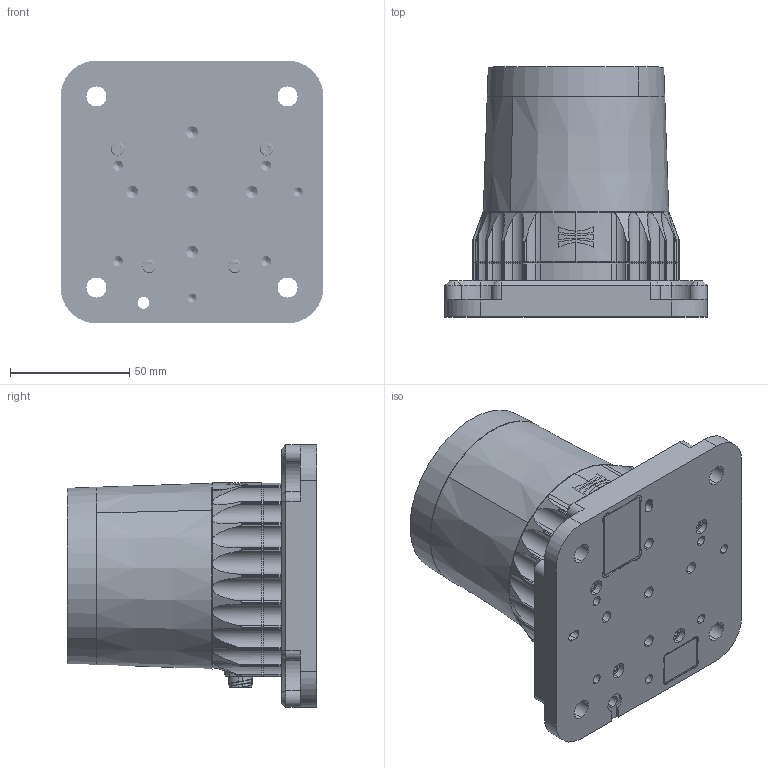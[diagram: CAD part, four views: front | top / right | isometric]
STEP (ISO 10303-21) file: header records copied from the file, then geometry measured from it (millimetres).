
FILE_DESCRIPTION (( 'STEP AP214' ), '1' );
FILE_NAME ('OS1MAX-08 b-cccc-ddddd-BX-fff-ggg.STEP', '2026-05-01T20:24:20', ( '' ), ( '' ), 'SwSTEP 2.0', 'SolidWorks 2022', '' );
FILE_SCHEMA (( 'AUTOMOTIVE_DESIGN' ));
Length unit declared in the file: millimetre
Products named in the file (1): OS1MAX-08 b-cccc-ddddd-BX-fff-ggg
Bounding box: 110 x 104.61 x 110 mm (x, y, z)
Volume: 387069.5 mm3; surface area: 93932.4 mm2
Topology: 10 solids, 11 shells, 1960 faces, 5348 edges, 3370 vertices
Faces by surface type: bspline 827, cylinder 698, cone 254, plane 181
Entity records: 126896 total; most frequent: CARTESIAN_POINT 65608, ORIENTED_EDGE 10472, DIRECTION 5419, EDGE_CURVE 5236, VERTEX_POINT 3370, AXIS2_PLACEMENT_3D 2126, EDGE_LOOP 2102, UNCERTAINTY_MEASURE_WITH_UNIT 1972
